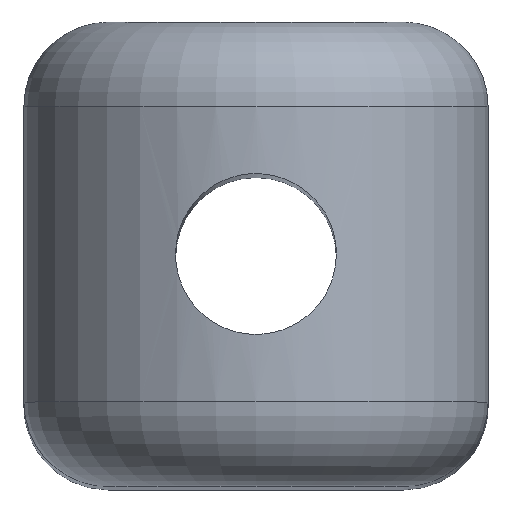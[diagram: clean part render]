
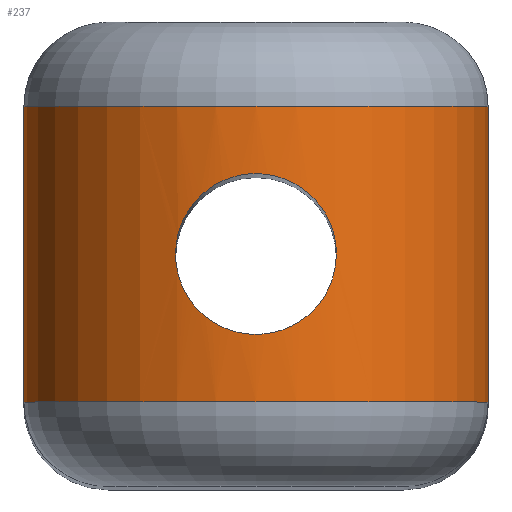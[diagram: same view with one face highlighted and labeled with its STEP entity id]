
A CAD part, top view. The second image highlights one B-rep face of the part: STEP entity #237.
In plain terms, the highlighted cylindrical face has radius 11 mm (diameter 22 mm), a partial arc.
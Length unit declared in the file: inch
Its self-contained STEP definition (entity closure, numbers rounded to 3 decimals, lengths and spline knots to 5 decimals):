
#16=FACE_BOUND('',#59,.T.);
#42=FACE_OUTER_BOUND('',#58,.T.);
#58=EDGE_LOOP('',(#210,#211,#212,#213));
#59=EDGE_LOOP('',(#214));
#60=B_SPLINE_CURVE_WITH_KNOTS('',3,(#361,#362,#363,#364,#365,#366,#367,
#368,#369,#370,#371,#372,#373,#374,#375,#376,#377,#378,#379,#380,#381,#382,
#383,#384,#385,#386,#387,#388,#389,#390,#391,#392,#393,#394),
 .UNSPECIFIED.,.T.,.F.,(4,2,2,2,2,2,2,2,2,2,2,2,2,2,2,2,4),(0.,0.14486,
0.28973,0.43451,0.5793,0.72409,
0.86887,1.01374,1.1586,1.30347,1.44833,
1.59312,1.7379,1.88269,2.02747,2.17234,
2.3172),.UNSPECIFIED.);
#71=LINE('',#427,#88);
#77=LINE('',#450,#94);
#88=VECTOR('',#320,0.55118);
#94=VECTOR('',#350,0.55118);
#98=CIRCLE('',#259,0.43307);
#102=CIRCLE('',#272,0.43307);
#105=VERTEX_POINT('',#359);
#107=VERTEX_POINT('',#397);
#111=VERTEX_POINT('',#406);
#116=VERTEX_POINT('',#426);
#118=VERTEX_POINT('',#432);
#124=EDGE_CURVE('',#105,#105,#60,.T.);
#130=EDGE_CURVE('',#111,#107,#98,.T.);
#140=EDGE_CURVE('',#107,#116,#71,.T.);
#147=EDGE_CURVE('',#116,#118,#102,.T.);
#152=EDGE_CURVE('',#111,#118,#77,.T.);
#210=ORIENTED_EDGE('',*,*,#130,.F.);
#211=ORIENTED_EDGE('',*,*,#152,.T.);
#212=ORIENTED_EDGE('',*,*,#147,.F.);
#213=ORIENTED_EDGE('',*,*,#140,.F.);
#214=ORIENTED_EDGE('',*,*,#124,.T.);
#222=CYLINDRICAL_SURFACE('',#279,0.43307);
#237=ADVANCED_FACE('',(#42,#16),#222,.T.);
#259=AXIS2_PLACEMENT_3D('',#408,#299,#300);
#272=AXIS2_PLACEMENT_3D('',#441,#336,#337);
#279=AXIS2_PLACEMENT_3D('',#452,#353,#354);
#299=DIRECTION('center_axis',(0.,-1.,0.));
#300=DIRECTION('ref_axis',(0.,0.,1.));
#320=DIRECTION('',(0.,1.,0.));
#336=DIRECTION('center_axis',(0.,1.,0.));
#337=DIRECTION('ref_axis',(0.,0.,1.));
#350=DIRECTION('',(0.,1.,0.));
#353=DIRECTION('center_axis',(0.,1.,0.));
#354=DIRECTION('ref_axis',(-1.,0.,0.));
#359=CARTESIAN_POINT('',(0.15,0.,4.3039));
#361=CARTESIAN_POINT('Ctrl Pts',(0.15,0.,
4.3039));
#362=CARTESIAN_POINT('Ctrl Pts',(0.15,-0.01901,
4.3039));
#363=CARTESIAN_POINT('Ctrl Pts',(0.14617,-0.03917,
4.30538));
#364=CARTESIAN_POINT('Ctrl Pts',(0.13081,-0.07607,
4.31056));
#365=CARTESIAN_POINT('Ctrl Pts',(0.1193,-0.09283,
4.31418));
#366=CARTESIAN_POINT('Ctrl Pts',(0.09284,-0.11929,
4.32086));
#367=CARTESIAN_POINT('Ctrl Pts',(0.07608,-0.13081,
4.32438));
#368=CARTESIAN_POINT('Ctrl Pts',(0.03916,-0.14617,
4.32934));
#369=CARTESIAN_POINT('Ctrl Pts',(0.019,-0.15,
4.33071));
#370=CARTESIAN_POINT('Ctrl Pts',(-0.019,-0.15,
4.33071));
#371=CARTESIAN_POINT('Ctrl Pts',(-0.03916,-0.14617,
4.32934));
#372=CARTESIAN_POINT('Ctrl Pts',(-0.07608,-0.13081,
4.32438));
#373=CARTESIAN_POINT('Ctrl Pts',(-0.09284,-0.11929,
4.32086));
#374=CARTESIAN_POINT('Ctrl Pts',(-0.1193,-0.09283,
4.31418));
#375=CARTESIAN_POINT('Ctrl Pts',(-0.13081,-0.07607,
4.31056));
#376=CARTESIAN_POINT('Ctrl Pts',(-0.14617,-0.03917,
4.30538));
#377=CARTESIAN_POINT('Ctrl Pts',(-0.15,-0.01901,
4.3039));
#378=CARTESIAN_POINT('Ctrl Pts',(-0.15,0.01901,
4.3039));
#379=CARTESIAN_POINT('Ctrl Pts',(-0.14617,0.03917,
4.30538));
#380=CARTESIAN_POINT('Ctrl Pts',(-0.13081,0.07607,
4.31056));
#381=CARTESIAN_POINT('Ctrl Pts',(-0.1193,0.09283,
4.31418));
#382=CARTESIAN_POINT('Ctrl Pts',(-0.09284,0.11929,
4.32086));
#383=CARTESIAN_POINT('Ctrl Pts',(-0.07608,0.13081,
4.32438));
#384=CARTESIAN_POINT('Ctrl Pts',(-0.03916,0.14617,
4.32934));
#385=CARTESIAN_POINT('Ctrl Pts',(-0.019,0.15,
4.33071));
#386=CARTESIAN_POINT('Ctrl Pts',(0.019,0.15,4.33071));
#387=CARTESIAN_POINT('Ctrl Pts',(0.03916,0.14617,4.32934));
#388=CARTESIAN_POINT('Ctrl Pts',(0.07608,0.13081,4.32438));
#389=CARTESIAN_POINT('Ctrl Pts',(0.09284,0.11929,4.32086));
#390=CARTESIAN_POINT('Ctrl Pts',(0.1193,0.09283,4.31418));
#391=CARTESIAN_POINT('Ctrl Pts',(0.13081,0.07607,4.31056));
#392=CARTESIAN_POINT('Ctrl Pts',(0.14617,0.03917,4.30538));
#393=CARTESIAN_POINT('Ctrl Pts',(0.15,0.01901,4.3039));
#394=CARTESIAN_POINT('Ctrl Pts',(0.15,0.,
4.3039));
#397=CARTESIAN_POINT('',(-0.43307,-0.27559,3.89764));
#406=CARTESIAN_POINT('',(0.43307,-0.27559,3.89764));
#408=CARTESIAN_POINT('Origin',(0.,-0.27559,
3.89764));
#426=CARTESIAN_POINT('',(-0.43307,0.27559,3.89764));
#427=CARTESIAN_POINT('',(-0.43307,-0.27559,3.89764));
#432=CARTESIAN_POINT('',(0.43307,0.27559,3.89764));
#441=CARTESIAN_POINT('Origin',(0.,0.27559,
3.89764));
#450=CARTESIAN_POINT('',(0.43307,-0.27559,3.89764));
#452=CARTESIAN_POINT('Origin',(0.,0.,3.89764));
